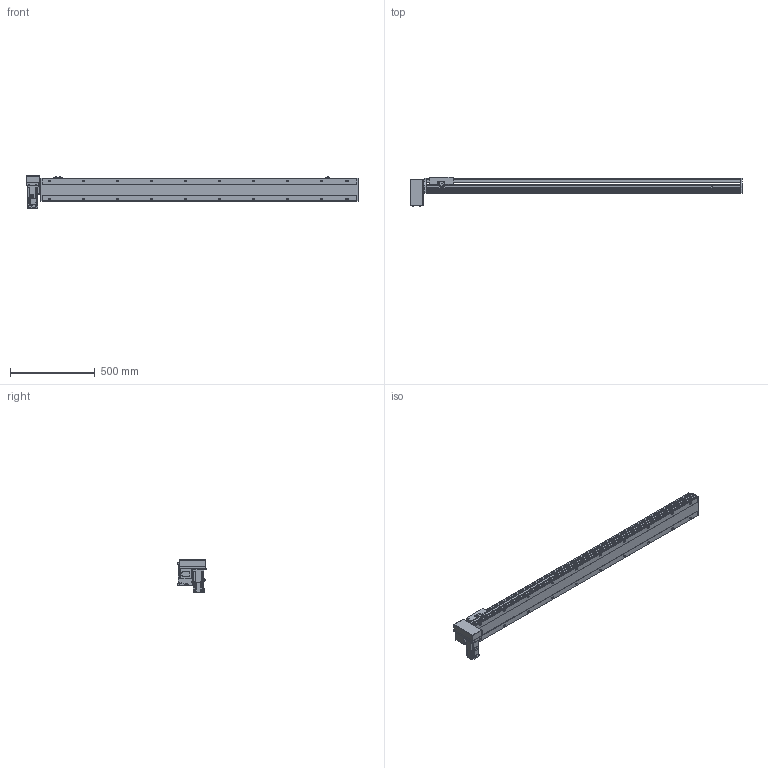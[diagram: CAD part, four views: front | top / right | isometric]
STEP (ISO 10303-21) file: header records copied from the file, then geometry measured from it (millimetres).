
FILE_DESCRIPTION( ( 'STEP AP214' ), '1' );
FILE_NAME( 'x:/temp/worker_6/temp/exporttempdir_5396_178_Tc8gP/format_0/PBS140S-P40-S1600-RD-T40-C1-N(0).stp', '2022-06-09T00:43:54', ( 'License CC BY-ND 4.0' ), ( 'CADENAS' ), ' ', 'PARTsolutions', ' ' );
FILE_SCHEMA( ( 'AUTOMOTIVE_DESIGN { 1 0 10303 214 1 1 1 1 }' ) );
Length unit declared in the file: millimetre
Products named in the file (7): PBS140S-P40-S1600-RD-T40-C1-N(0); _PBS140S-S1600()_body; _PBS140ST-RD_motors; _T40-p1; _PBS140S_sliser; _PBS140S_plant; _PBS140S_sensor
Assembly tree (8 placements, depth 2):
  PBS140S-P40-S1600-RD-T40-C1-N(0)
    _PBS140S-S1600()_body
    _PBS140ST-RD_motors
    _T40-p1
    _PBS140S_sliser
    _PBS140S_plant
    _PBS140S_sensor  x3
Bounding box: 1954 x 172.5 x 189.7 mm (x, y, z)
Volume: 9772110.4 mm3; surface area: 1666023.5 mm2
Topology: 8 solids, 8 shells, 1131 faces, 2991 edges, 1957 vertices
Faces by surface type: plane 714, cylinder 361, cone 46, sphere 8, torus 2
Full cylindrical faces by diameter (mm): 3.242 x4, 4 x2, 4.134 x4, 4.4 x8, 4.5 x2, 4.8 x4, 4.917 x28, 5.5 x7, 6 x2, 7 x22, 7.5 x8, 8 x12, 8.5 x4, 10.5 x20, 14 x1, 30 x2, 50 x2
Entity records: 41620 total; most frequent: CARTESIAN_POINT 6742, DIRECTION 5488, ORIENTED_EDGE 5182, EDGE_CURVE 2591, AXIS2_PLACEMENT_3D 1919, VERTEX_POINT 1801, LINE 1650, VECTOR 1650
